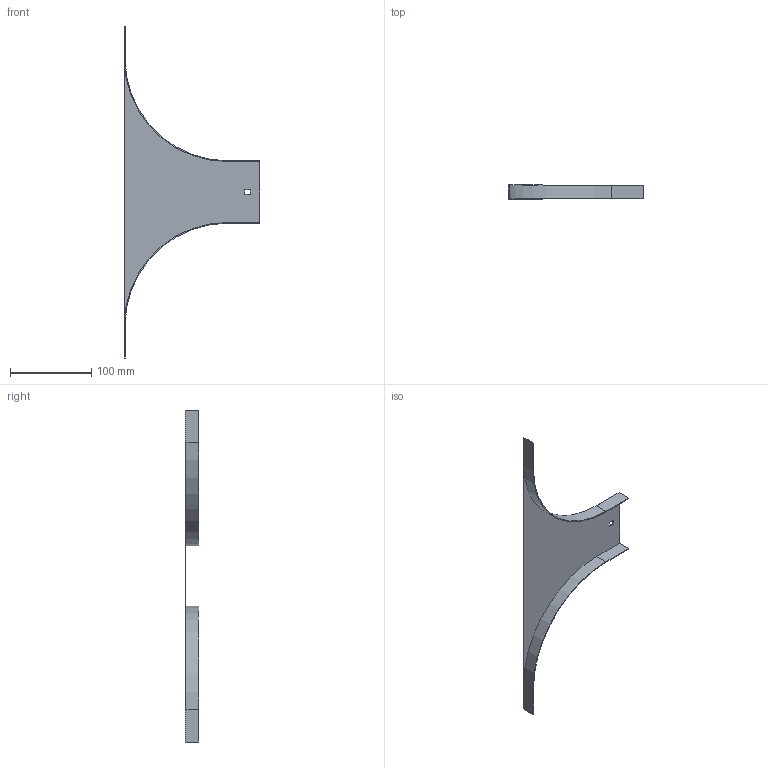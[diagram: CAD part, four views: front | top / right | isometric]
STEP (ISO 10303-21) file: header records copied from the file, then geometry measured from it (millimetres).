
FILE_DESCRIPTION (( 'STEP AP214' ), '1' );
FILE_NAME ('ORL_075.step', '2025-07-16T09:15:32', ( '' ), ( '' ), 'SwSTEP 2.0', 'SolidWorks 2023', '' );
FILE_SCHEMA (( 'AUTOMOTIVE_DESIGN' ));
Length unit declared in the file: millimetre
Products named in the file (1): ORL_075
Bounding box: 167 x 17 x 409 mm (x, y, z)
Volume: 28881.6 mm3; surface area: 58897.1 mm2
Topology: 1 solids, 1 shells, 22 faces, 60 edges, 40 vertices
Faces by surface type: plane 18, cylinder 4
Entity records: 719 total; most frequent: CARTESIAN_POINT 123, ORIENTED_EDGE 120, DIRECTION 114, EDGE_CURVE 60, VECTOR 52, LINE 52, VERTEX_POINT 40, AXIS2_PLACEMENT_3D 31
